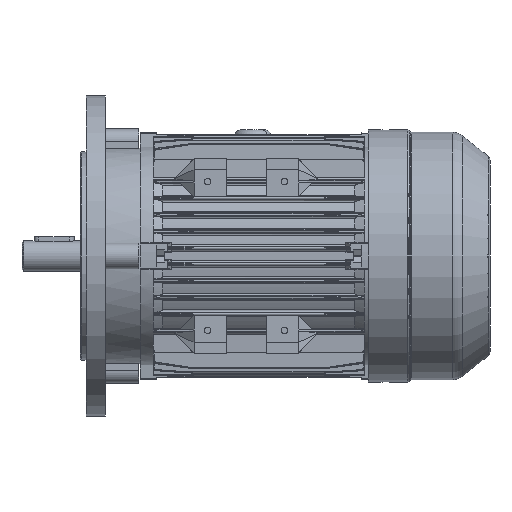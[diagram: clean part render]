
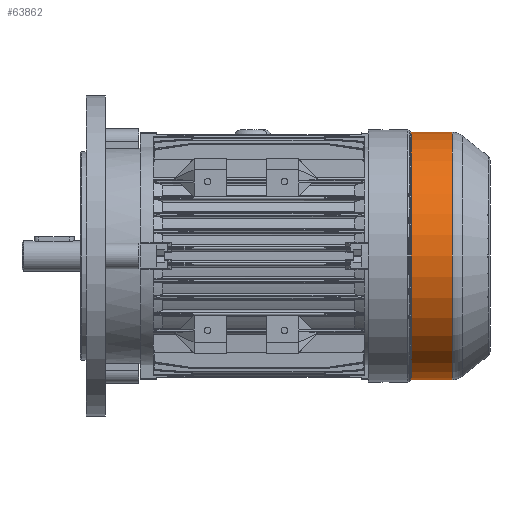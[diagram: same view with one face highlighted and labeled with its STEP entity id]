
A CAD part, front view. The second image highlights one B-rep face of the part: STEP entity #63862.
In plain terms, the highlighted cylindrical face has radius 77.3 mm (diameter 154.6 mm), a partial arc.
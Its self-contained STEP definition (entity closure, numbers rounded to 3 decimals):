
#51065 = CARTESIAN_POINT ( 'NONE',  ( -52.518, 0., 77.3 ) ) ;
#51222 = CARTESIAN_POINT ( 'NONE',  ( -26.914, 0., -77.3 ) ) ;
#51419 = VERTEX_POINT ( 'NONE', #51222 ) ;
#51557 = CARTESIAN_POINT ( 'NONE',  ( -26.914, 0., 77.3 ) ) ;
#51692 = DIRECTION ( 'NONE',  ( -1., 0., 0. ) ) ;
#51699 = CARTESIAN_POINT ( 'NONE',  ( -26.914, 0., 0. ) ) ;
#51791 = DIRECTION ( 'NONE',  ( 0., 0., 1. ) ) ;
#51792 = AXIS2_PLACEMENT_3D ( 'NONE', #51699, #51692, #51791 ) ;
#51793 = CIRCLE ( 'NONE', #51792, 77.3 ) ;
#52469 = CARTESIAN_POINT ( 'NONE',  ( -52.518, 0., -77.3 ) ) ;
#52701 = CARTESIAN_POINT ( 'NONE',  ( -74., 0., 77.3 ) ) ;
#52702 = LINE ( 'NONE', #52701, #52820 ) ;
#52705 = DIRECTION ( 'NONE',  ( -1., 0., 0. ) ) ;
#52706 = VECTOR ( 'NONE', #52705, 1000. ) ;
#52756 = CARTESIAN_POINT ( 'NONE',  ( -74., 0., -77.3 ) ) ;
#52757 = LINE ( 'NONE', #52756, #52706 ) ;
#52819 = DIRECTION ( 'NONE',  ( -1., 0., 0. ) ) ;
#52820 = VECTOR ( 'NONE', #52819, 1000. ) ;
#53639 = VERTEX_POINT ( 'NONE', #51557 ) ;
#54727 = VERTEX_POINT ( 'NONE', #51065 ) ;
#55345 = EDGE_CURVE ( 'NONE', #51419, #53639, #51793, .T. ) ;
#56927 = VERTEX_POINT ( 'NONE', #52469 ) ;
#58071 = EDGE_CURVE ( 'NONE', #51419, #56927, #52757, .T. ) ;
#58073 = EDGE_CURVE ( 'NONE', #53639, #54727, #52702, .T. ) ;
#63816 = EDGE_LOOP ( 'NONE', ( #63858, #63866, #63869, #63878 ) ) ;
#63858 = ORIENTED_EDGE ( 'NONE', *, *, #58071, .F. ) ;
#63862 = ADVANCED_FACE ( 'NONE', ( #90724 ), #90762, .T. ) ;
#63866 = ORIENTED_EDGE ( 'NONE', *, *, #55345, .T. ) ;
#63867 = EDGE_CURVE ( 'NONE', #54727, #56927, #90728, .T. ) ;
#63869 = ORIENTED_EDGE ( 'NONE', *, *, #58073, .T. ) ;
#63878 = ORIENTED_EDGE ( 'NONE', *, *, #63867, .T. ) ;
#90712 = CARTESIAN_POINT ( 'NONE',  ( -52.518, 0., 0. ) ) ;
#90724 = FACE_OUTER_BOUND ( 'NONE', #63816, .T. ) ;
#90725 = CARTESIAN_POINT ( 'NONE',  ( -74., 0., 0. ) ) ;
#90728 = CIRCLE ( 'NONE', #90826, 77.3 ) ;
#90737 = AXIS2_PLACEMENT_3D ( 'NONE', #90725, #90834, #90833 ) ;
#90762 = CYLINDRICAL_SURFACE ( 'NONE', #90737, 77.3 ) ;
#90824 = DIRECTION ( 'NONE',  ( 0., 0., -1. ) ) ;
#90825 = DIRECTION ( 'NONE',  ( 1., 0., 0. ) ) ;
#90826 = AXIS2_PLACEMENT_3D ( 'NONE', #90712, #90825, #90824 ) ;
#90833 = DIRECTION ( 'NONE',  ( 0., 0., 1. ) ) ;
#90834 = DIRECTION ( 'NONE',  ( -1., 0., 0. ) ) ;
